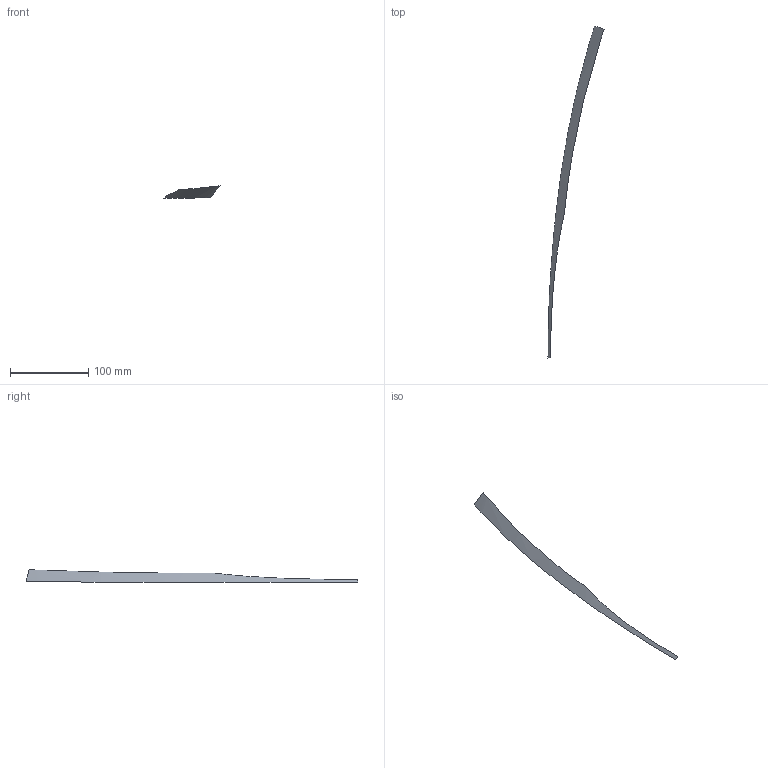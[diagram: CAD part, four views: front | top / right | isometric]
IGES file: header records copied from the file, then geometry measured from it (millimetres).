
Start section: START RECORD GO HERE
Global section: file name: s2.igs; native system: IBM CATIA IGES - CATIA SOLUTIONS V4RELEASE 1.9 REFRESH 01; preprocessor: CATIA SOLUTIONS V4RELEASE 1.9 REFRESH 01; author: cky; date: 990510.133752; units: millimetre
Bounding box: 71.51 x 423.61 x 16 mm (x, y, z)
Surface area: 5556.6 mm2 (no closed solid volume)
Topology: 0 solids, 0 shells, 1 faces, 37 edges, 37 vertices
Faces by surface type: bspline 1
